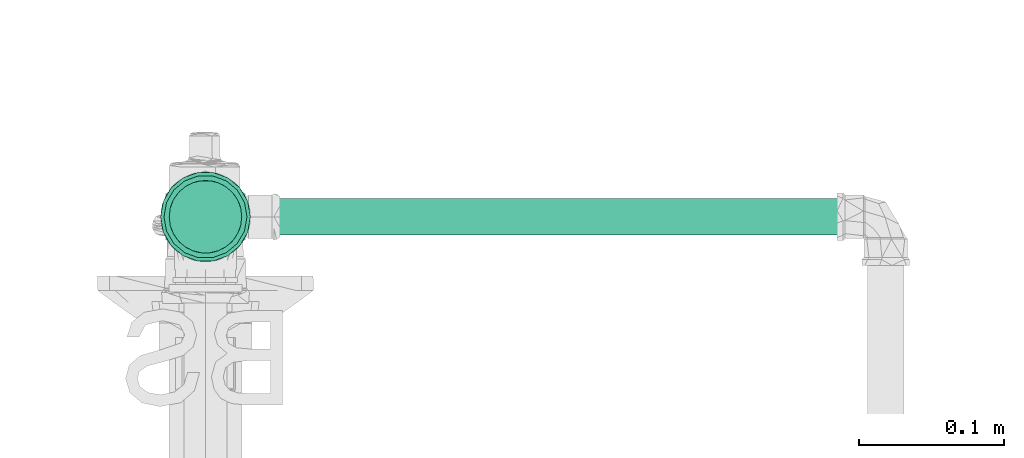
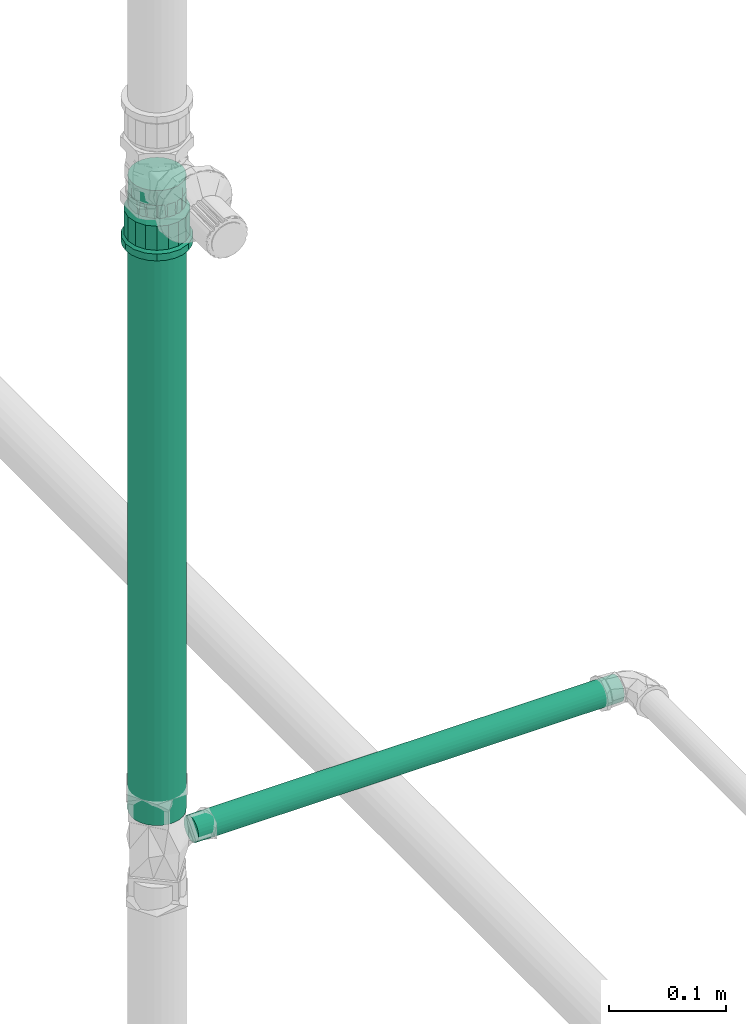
# One storey, part 155 of 589: 2 flow segments, 1 flow fitting.
"""IFC2X3 building model written with IfcOpenShell, lengths in millimetres."""

from ifc_helpers import new_model, entity, si_unit, converted_unit, derived_unit, direction, frame, frame_2d, origin, origin_2d_with_axis, place, context, subcontext, project, spatial, circle, extrude, faceted_brep, source, transform, mapped, material, type_object, type_shapes, element, save


model = new_model("IFC2X3")

# Units and contexts
model_context = context("Model", 3, precision=0.01, world=origin(), true_north=direction((6.123031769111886e-17, 1.0)))
body_context = subcontext(model_context, "Body", "Model", "MODEL_VIEW")
ifc_project = project(units=[si_unit("LENGTHUNIT", "METRE", prefix="MILLI"), si_unit("AREAUNIT", "SQUARE_METRE"), si_unit("VOLUMEUNIT", "CUBIC_METRE"), converted_unit("PLANEANGLEUNIT", "DEGREE", entity("IfcRatioMeasure", 0.017453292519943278), si_unit("PLANEANGLEUNIT", "RADIAN"), dimensions=[0, 0, 0, 0, 0, 0, 0]), si_unit("MASSUNIT", "GRAM", prefix="KILO"), derived_unit("MASSDENSITYUNIT", [(si_unit("MASSUNIT", "GRAM", prefix="KILO"), 1), (si_unit("LENGTHUNIT", "METRE"), -3)]), derived_unit("IONCONCENTRATIONUNIT", [(si_unit("MASSUNIT", "GRAM", prefix="KILO"), 1), (si_unit("LENGTHUNIT", "METRE"), -3)]), derived_unit("MOMENTOFINERTIAUNIT", [(si_unit("LENGTHUNIT", "METRE"), 4)]), si_unit("TIMEUNIT", "SECOND"), si_unit("FREQUENCYUNIT", "HERTZ"), si_unit("THERMODYNAMICTEMPERATUREUNIT", "DEGREE_CELSIUS"), derived_unit("THERMALTRANSMITTANCEUNIT", [(si_unit("MASSUNIT", "GRAM", prefix="KILO"), 1), (si_unit("THERMODYNAMICTEMPERATUREUNIT", "KELVIN"), -1), (si_unit("TIMEUNIT", "SECOND"), -3)]), derived_unit("THERMALCONDUCTANCEUNIT", [(si_unit("MASSUNIT", "GRAM", prefix="KILO"), 1), (si_unit("THERMODYNAMICTEMPERATUREUNIT", "KELVIN"), -1), (si_unit("TIMEUNIT", "SECOND"), -3), (si_unit("LENGTHUNIT", "METRE"), 1)]), derived_unit("VOLUMETRICFLOWRATEUNIT", [(si_unit("LENGTHUNIT", "METRE"), 3), (si_unit("TIMEUNIT", "SECOND"), -1)]), derived_unit("MASSFLOWRATEUNIT", [(si_unit("MASSUNIT", "GRAM", prefix="KILO"), 1), (si_unit("TIMEUNIT", "SECOND"), -1)]), derived_unit("ROTATIONALFREQUENCYUNIT", [(si_unit("TIMEUNIT", "SECOND"), -1)]), si_unit("ELECTRICCURRENTUNIT", "AMPERE"), si_unit("ELECTRICVOLTAGEUNIT", "VOLT"), si_unit("POWERUNIT", "WATT"), si_unit("FORCEUNIT", "NEWTON", prefix="KILO"), si_unit("ILLUMINANCEUNIT", "LUX"), si_unit("LUMINOUSFLUXUNIT", "LUMEN"), si_unit("LUMINOUSINTENSITYUNIT", "CANDELA"), derived_unit("USERDEFINED", [(si_unit("MASSUNIT", "GRAM", prefix="KILO"), -1), (si_unit("LENGTHUNIT", "METRE"), -2), (si_unit("TIMEUNIT", "SECOND"), 3), (si_unit("LUMINOUSFLUXUNIT", "LUMEN"), 1)]), derived_unit("USERDEFINED", [(si_unit("MASSUNIT", "GRAM", prefix="KILO"), 1), (si_unit("TIMEUNIT", "SECOND"), -3), (si_unit("LENGTHUNIT", "METRE"), 3), (si_unit("ELECTRICCURRENTUNIT", "AMPERE"), -2)]), derived_unit("SOUNDPOWERUNIT", [(si_unit("MASSUNIT", "GRAM", prefix="KILO"), 1), (si_unit("TIMEUNIT", "SECOND"), -3), (si_unit("LENGTHUNIT", "METRE"), 2)]), derived_unit("SOUNDPRESSUREUNIT", [(si_unit("MASSUNIT", "GRAM", prefix="KILO"), 1), (si_unit("LENGTHUNIT", "METRE"), -1), (si_unit("TIMEUNIT", "SECOND"), -2)]), derived_unit("LINEARVELOCITYUNIT", [(si_unit("LENGTHUNIT", "METRE"), 1), (si_unit("TIMEUNIT", "SECOND"), -1)]), si_unit("PRESSUREUNIT", "PASCAL"), derived_unit("USERDEFINED", [(si_unit("MASSUNIT", "GRAM", prefix="KILO"), 1), (si_unit("LENGTHUNIT", "METRE"), -2), (si_unit("TIMEUNIT", "SECOND"), -2)]), derived_unit("LINEARFORCEUNIT", [(si_unit("MASSUNIT", "GRAM", prefix="KILO"), 1), (si_unit("TIMEUNIT", "SECOND"), -2)]), derived_unit("PLANARFORCEUNIT", [(si_unit("MASSUNIT", "GRAM", prefix="KILO"), 1), (si_unit("LENGTHUNIT", "METRE"), -1), (si_unit("TIMEUNIT", "SECOND"), -2)]), derived_unit("SPECIFICHEATCAPACITYUNIT", [(si_unit("THERMODYNAMICTEMPERATUREUNIT", "KELVIN"), -1), (si_unit("LENGTHUNIT", "METRE"), 2), (si_unit("TIMEUNIT", "SECOND"), -2)]), derived_unit("HEATINGVALUEUNIT", [(si_unit("LENGTHUNIT", "METRE"), 2), (si_unit("TIMEUNIT", "SECOND"), -2)]), derived_unit("VAPORPERMEABILITYUNIT", [(si_unit("LENGTHUNIT", "METRE"), -1), (si_unit("TIMEUNIT", "SECOND"), 1)]), derived_unit("DYNAMICVISCOSITYUNIT", [(si_unit("MASSUNIT", "GRAM", prefix="KILO"), 1), (si_unit("TIMEUNIT", "SECOND"), -1), (si_unit("LENGTHUNIT", "METRE"), -1)]), derived_unit("THERMALEXPANSIONCOEFFICIENTUNIT", [(si_unit("THERMODYNAMICTEMPERATUREUNIT", "KELVIN"), -1)]), derived_unit("MODULUSOFELASTICITYUNIT", [(si_unit("MASSUNIT", "GRAM", prefix="KILO"), 1), (si_unit("LENGTHUNIT", "METRE"), -1), (si_unit("TIMEUNIT", "SECOND"), -2)]), derived_unit("ISOTHERMALMOISTURECAPACITYUNIT", [(si_unit("LENGTHUNIT", "METRE"), 3), (si_unit("MASSUNIT", "GRAM", prefix="KILO"), -1)]), derived_unit("MOISTUREDIFFUSIVITYUNIT", [(si_unit("TIMEUNIT", "SECOND"), -1), (si_unit("LENGTHUNIT", "METRE"), 2)])], contexts=[model_context])

# Site, building, storey
site_placement = place(None, origin())
site = spatial("IfcSite", under=ifc_project, at=site_placement, Name="Default", CompositionType="ELEMENT")
building_placement = place(site_placement, origin())
building = spatial("IfcBuilding", under=site, at=building_placement, CompositionType="ELEMENT")
storey_placement = place(building_placement, frame((0.0, 0.0, 100.0)))
storey = spatial("IfcBuildingStorey", under=building, at=storey_placement, Name="TÉRREO", CompositionType="ELEMENT", Elevation=100.0)

# Flow segments
pipe_segment_type = type_object("IfcPipeSegmentType", Name="Tipos de tubos:PVC Marrom Soldável", PredefinedType="NOTDEFINED")
flow_segment_1_placement = place(storey_placement, origin())
element("IfcFlowSegment", 1, at=flow_segment_1_placement, inside=storey, type_object=pipe_segment_type, Name="Tipos de tubos:PVC Marrom Soldável", ObjectType="Tipos de tubos:PVC Marrom Soldável", context=body_context, shape_type="SweptSolid", body=[
    extrude(circle(Radius=25.0, at=frame_2d((0.0, 1.0828671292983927e-12), x_axis=(1.0, 0.0))), frame((8798.142188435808, -7965.828664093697, 1532.599970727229), z_axis=(0.0, 0.0, 1.0), x_axis=(-1.0, 0.0, 0.0)), (0.0, 0.0, 1.0), 645.9000292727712),
])
flow_segment_2_placement = place(storey_placement, origin())
element("IfcFlowSegment", 2, at=flow_segment_2_placement, inside=storey, type_object=pipe_segment_type, Name="Tipos de tubos:PVC Marrom Soldável", ObjectType="Tipos de tubos:PVC Marrom Soldável", context=body_context, shape_type="SweptSolid", body=[
    extrude(circle(Radius=12.5, at=origin_2d_with_axis()), frame((8831.842188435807, -7965.828664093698, 1499.999970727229), z_axis=(1.0, 0.0, 0.0), x_axis=(0.0, -1.0, 0.0)), (0.0, 0.0, 1.0), 419.6286969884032),
])

# Flow fitting
ifc_material = material(Name="PVC Marrom")
pipe_fitting_type = type_object("IfcPipeFittingType", Name="PVC Marrom Soldável_Adaptador Curto com Bolsa e Rosca Aninhado_Rodrigo MEP:Adaptador", PredefinedType="NOTDEFINED", material=ifc_material)
shared_shape = source(origin(), body_context, "Body", "Brep", [
    faceted_brep([(0.0, -15.475000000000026, -26.803486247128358), (0.0, -21.884954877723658, -21.88495487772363), (0.0, -12.499999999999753, -21.65063509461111), (0.0, -6.470476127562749, -24.14814565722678), (0.0, -8.010449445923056, -29.895404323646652), (0.0, -17.677669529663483, -17.6776695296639), (0.0, -26.803486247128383, -15.474999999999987), (0.0, -21.650635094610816, -12.500000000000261), (0.0, -24.148145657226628, -6.470476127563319), (0.0, -29.895404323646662, -8.01044944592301), (0.0, -25.0, 0.0), (0.0, -30.95, 0.0), (0.0, -24.14814565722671, 6.470476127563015), (0.0, -29.895404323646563, 8.010449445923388), (0.0, -21.65063509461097, 12.499999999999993), (0.0, -26.80348624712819, 15.475000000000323), (0.0, -17.6776695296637, 17.677669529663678), (0.0, -21.884954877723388, 21.884954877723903), (0.0, -12.500000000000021, 21.65063509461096), (0.0, -15.474999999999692, 26.803486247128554), (0.0, -6.4704761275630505, 24.1481456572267), (0.0, -8.010449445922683, 29.89540432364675), (0.0, 0.0, 25.0), (0.0, 0.0, 30.95), (0.0, 6.4704761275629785, 24.14814565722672), (0.0, 8.010449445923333, 29.895404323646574), (0.0, 12.49999999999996, 21.650635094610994), (0.0, 15.475000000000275, 26.803486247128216), (0.0, 17.677669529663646, 17.67766952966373), (0.0, 21.884954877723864, 21.884954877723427), (0.0, 21.65063509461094, 12.500000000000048), (0.0, 26.803486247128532, 15.474999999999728), (0.0, 29.89540432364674, 8.010449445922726), (0.0, 24.14814565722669, 6.4704761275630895), (0.0, 30.95, 0.0), (0.0, 25.0, 0.0), (0.0, 29.895404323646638, -8.010449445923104), (0.0, 24.148145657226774, -6.470476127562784), (0.0, 26.803486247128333, -15.475000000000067), (0.0, 21.6506350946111, -12.499999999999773), (0.0, 21.884954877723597, -21.884954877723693), (0.0, 17.677669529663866, -17.67766952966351), (0.0, 15.474999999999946, -26.803486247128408), (0.0, 12.500000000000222, -21.650635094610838), (0.0, 8.010449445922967, -29.895404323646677), (0.0, 6.470476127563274, -24.148145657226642), (0.0, 0.0, -30.95), (0.0, 0.0, -25.0), (7.0, 29.083191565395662, 10.586334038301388), (7.0, 29.880651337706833, 6.064083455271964), (7.0, 30.016595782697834, 5.29316701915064), (7.0, 19.590362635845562, 23.350189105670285), (7.0, 23.70796650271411, 19.895598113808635), (7.0, 26.395579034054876, 15.24096607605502), (7.0, 10.421885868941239, 28.6425895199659), (7.0, 5.3710129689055, 30.480398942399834), (7.0, 30.95, 0.0), (7.0, 15.472758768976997, 26.804780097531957), (7.0, -15.479482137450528, 26.80089798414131), (7.0, -10.42907040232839, 28.639974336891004), (7.0, -5.37865866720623, 30.479050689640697), (7.0, -23.712956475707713, 19.889650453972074), (7.0, -19.596219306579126, 23.345274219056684), (7.0, -30.95, 0.0), (7.0, -29.08584618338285, 10.57903832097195), (7.0, -26.39940132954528, 15.234344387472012), (7.0, -0.0038228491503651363, 30.47972481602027), (7.0, -29.08584618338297, -10.579038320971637), (7.0, -19.596219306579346, -23.3452742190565), (7.0, -23.71295647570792, -19.88965045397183), (7.0, -26.39940132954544, -15.234344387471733), (7.0, -10.429070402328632, -28.639974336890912), (7.0, -5.378658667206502, -30.47905068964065), (7.0, -15.47948213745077, -26.800897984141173), (7.0, 30.0165957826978, -5.2931670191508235), (7.0, 15.472758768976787, -26.804780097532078), (7.0, 10.421885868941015, -28.642589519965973), (7.0, 5.3710129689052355, -30.480398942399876), (7.0, 23.707966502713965, -19.895598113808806), (7.0, 19.590362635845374, -23.350189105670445), (7.0, 29.88065131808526, -6.064083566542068), (7.0, 29.083191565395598, -10.58633403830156), (7.0, 26.395579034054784, -15.240966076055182), (7.0, -0.003822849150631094, -30.479724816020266), (34.4499999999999, 26.875116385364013, 9.782030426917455), (9.400000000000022, 27.737468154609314, 4.8912625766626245), (9.400000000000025, 26.87493630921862, 9.782525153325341), (9.400000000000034, 14.297928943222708, 24.769522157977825), (34.4499999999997, 14.299296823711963, 24.768732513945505), (9.40000000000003, 18.102887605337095, 21.577234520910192), (34.4499999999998, 21.908523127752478, 18.384140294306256), (34.44999999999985, 24.391819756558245, 14.083085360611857), (9.400000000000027, 24.391391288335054, 14.083736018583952), (9.400000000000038, 9.63056335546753, 26.467788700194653), (9.400000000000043, 4.963197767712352, 28.16605524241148), (34.44999999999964, 4.965271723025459, 28.165689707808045), (9.400000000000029, 21.907846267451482, 18.384946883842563), (34.44999999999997, 27.796398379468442, 4.557325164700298), (9.40000000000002, 28.600000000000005, 0.0), (34.44999999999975, 18.103909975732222, 21.57643640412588), (34.44999999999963, -0.0011994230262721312, 28.165478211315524), (9.400000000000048, -0.0035325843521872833, 28.165432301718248), (34.44999999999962, -4.967670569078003, 28.165266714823), (34.44999999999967, 9.632284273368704, 26.46721111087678), (9.400000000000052, -4.970262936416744, 28.164809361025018), (9.40000000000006, -14.304141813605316, 24.765934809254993), (34.449999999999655, -14.301406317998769, 24.76751455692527), (9.400000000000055, -9.63720237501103, 26.465372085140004), (34.449999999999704, -18.105747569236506, 21.574894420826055), (34.44999999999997, 27.73755819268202, 4.891015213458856), (9.400000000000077, -26.87738936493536, 9.77578339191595), (34.450000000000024, -28.600000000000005, 0.0), (34.449999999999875, -26.875949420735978, 9.779741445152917), (9.400000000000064, -18.108299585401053, 21.57269281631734), (9.40000000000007, -21.91245735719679, 18.379450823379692), (34.449999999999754, -21.910088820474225, 18.38227428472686), (34.44999999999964, -9.634538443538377, 26.466390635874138), (9.400000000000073, -24.394923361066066, 14.077617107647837), (34.450000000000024, 28.600000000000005, 0.0), (9.40000000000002, -28.600000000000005, 0.0), (34.44999999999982, -24.3930191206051, 14.081007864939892), (34.45000000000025, -26.87594942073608, -9.77974144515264), (9.40000000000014, -26.87738936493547, -9.77578339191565), (34.45000000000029, 18.103909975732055, -21.576436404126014), (34.45000000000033, 14.299296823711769, -24.76873251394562), (9.400000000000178, 18.10288760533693, -21.577234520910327), (34.450000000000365, -21.910088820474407, -18.38227428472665), (9.400000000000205, -21.912457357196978, -18.37945082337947), (9.400000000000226, -18.108299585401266, -21.57269281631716), (34.45000000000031, -24.393019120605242, -14.081007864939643), (9.400000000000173, -24.394923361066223, -14.077617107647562), (9.40000000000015, 21.907846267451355, -18.384946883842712), (9.40000000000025, -0.0035325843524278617, -28.165432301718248), (9.400000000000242, 4.963197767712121, -28.166055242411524), (34.45000000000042, -0.0011994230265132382, -28.165478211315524), (34.45000000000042, -14.301406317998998, -24.76751455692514), (9.400000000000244, -14.304141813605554, -24.765934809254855), (9.40000000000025, -9.637202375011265, -26.46537208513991), (34.45000000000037, 9.632284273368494, -26.467211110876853), (34.45000000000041, 4.965271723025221, -28.165689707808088), (9.400000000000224, 9.63056335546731, -26.467788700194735), (9.400000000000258, -4.970262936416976, -28.164809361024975), (34.45000000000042, -9.634538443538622, -26.46639063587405), (34.45000000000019, 24.391819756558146, -14.083085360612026), (9.40000000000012, 24.391391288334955, -14.083736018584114), (9.400000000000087, 26.874936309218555, -9.782525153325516), (34.450000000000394, -18.1057475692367, -21.574894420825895), (34.450000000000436, -4.967670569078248, -28.16526671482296), (34.45000000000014, 26.875116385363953, -9.782030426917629), (34.450000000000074, 27.796398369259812, -4.557325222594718), (9.400000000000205, 14.297928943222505, -24.769522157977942), (9.400000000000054, 27.737468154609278, -4.8912625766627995), (34.450000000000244, 21.908523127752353, -18.38414029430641), (34.45000000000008, 27.737558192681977, -4.891015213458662), (69.0, 0.0, -25.0), (69.0, 6.4704761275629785, -24.14814565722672), (69.0, 12.49999999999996, -21.650635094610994), (69.0, 17.677669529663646, -17.67766952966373), (69.0, 21.650635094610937, -12.500000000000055), (69.0, 24.14814565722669, -6.4704761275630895), (69.0, 25.0, 0.0), (69.0, 24.148145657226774, 6.470476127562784), (69.0, 21.650635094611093, 12.499999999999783), (69.0, 17.67766952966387, 17.677669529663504), (69.0, 12.500000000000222, 21.650635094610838), (69.0, 6.470476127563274, 24.148145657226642), (69.0, 0.0, 25.0), (69.0, -6.470476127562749, 24.14814565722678), (69.0, -12.499999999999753, 21.65063509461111), (69.0, -17.677669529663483, 17.6776695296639), (69.0, -21.650635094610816, 12.500000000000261), (69.0, -24.148145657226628, 6.470476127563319), (69.0, -25.0, 0.0), (69.0, -24.14814565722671, -6.470476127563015), (69.0, -21.650635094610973, -12.499999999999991), (69.0, -17.6776695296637, -17.677669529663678), (69.0, -12.500000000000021, -21.65063509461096), (69.0, -6.4704761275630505, -24.1481456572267), (40.499999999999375, 8.41832461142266, 23.136178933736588), (40.49999999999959, 19.1502152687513, 16.070757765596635), (40.49999999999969, 21.321146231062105, 12.310958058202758), (40.49999999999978, 23.492077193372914, 8.551158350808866), (40.49999999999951, 15.824202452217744, 18.861218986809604), (40.49999999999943, 12.498189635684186, 21.651680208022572), (40.49999999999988, 24.246038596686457, 4.275579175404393), (40.49999999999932, 4.3384595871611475, 24.620677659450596), (40.499999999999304, -0.003087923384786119, 24.620133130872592), (40.499999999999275, -4.344635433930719, 24.61958860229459), (40.49999999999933, -12.503620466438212, 21.648544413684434), (40.49999999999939, -15.828933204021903, 18.85724896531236), (40.49999999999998, 25.0, 0.0), (40.49999999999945, -19.154245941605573, 16.065953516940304), (40.49999999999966, -23.494221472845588, 8.545265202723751), (40.499999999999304, -8.424127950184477, 23.13406650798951), (40.49999999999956, -21.324233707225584, 12.305609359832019), (40.49999999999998, -25.0, 0.0), (40.500000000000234, -19.15424594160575, -16.065953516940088), (40.50000000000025, 12.498189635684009, -21.65168020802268), (40.500000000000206, 15.824202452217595, -18.861218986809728), (40.500000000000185, -21.32423370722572, -12.305609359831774), (40.50000000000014, -23.494221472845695, -8.545265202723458), (40.50000000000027, -15.82893320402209, -18.8572489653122), (40.5000000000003, -12.503620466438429, -21.64854441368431), (40.50000000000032, -8.42412795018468, -23.13406650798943), (40.50000000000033, -4.344635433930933, -24.619588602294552), (40.50000000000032, -0.00308792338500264, -24.620133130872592), (40.5000000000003, 4.3384595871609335, -24.62067765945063), (40.50000000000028, 8.41832461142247, -23.136178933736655), (40.50000000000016, 19.150215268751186, -16.070757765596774), (40.50000000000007, 23.49207719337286, -8.551158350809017), (40.500000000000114, 21.321146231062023, -12.31095805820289), (40.50000000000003, 24.246038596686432, -4.275579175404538), (9.40000000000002, 24.14814565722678, -6.470476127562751), (34.450000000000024, 24.14814565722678, -6.470476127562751), (34.450000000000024, 25.0, 0.0), (9.40000000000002, 25.0, 0.0), (7.0, 25.0, 0.0), (7.0, 24.14814565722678, -6.470476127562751), (9.40000000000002, 21.650635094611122, -12.499999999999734), (34.450000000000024, 21.650635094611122, -12.499999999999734), (7.0, 21.650635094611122, -12.499999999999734), (34.450000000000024, 12.500000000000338, -21.65063509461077), (34.450000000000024, 17.677669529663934, -17.677669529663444), (9.40000000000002, 17.677669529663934, -17.677669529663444), (7.0, 17.677669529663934, -17.677669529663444), (7.0, 12.500000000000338, -21.65063509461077), (9.40000000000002, 12.500000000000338, -21.65063509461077), (34.450000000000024, 6.470476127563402, -24.148145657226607), (7.0, 6.470476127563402, -24.148145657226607), (9.40000000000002, 6.470476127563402, -24.148145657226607), (34.450000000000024, 0.0, -25.0), (7.0, 0.0, -25.0), (9.40000000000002, 0.0, -25.0), (9.40000000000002, -6.470476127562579, -24.148145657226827), (34.450000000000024, -6.470476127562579, -24.148145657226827), (7.0, -6.470476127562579, -24.148145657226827), (9.40000000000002, -12.49999999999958, -21.65063509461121), (34.450000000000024, -12.49999999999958, -21.65063509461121), (7.0, -12.49999999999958, -21.65063509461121), (9.40000000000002, -24.148145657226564, -6.470476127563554), (7.0, -24.14814565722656, -6.470476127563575), (7.0, -25.0, 0.0), (9.40000000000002, -25.0, 0.0), (34.450000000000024, -25.0, 0.0), (34.450000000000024, -24.148145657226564, -6.470476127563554), (9.40000000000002, -17.677669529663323, -17.677669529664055), (34.450000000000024, -17.677669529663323, -17.677669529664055), (7.0, -17.677669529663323, -17.677669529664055), (9.40000000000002, -21.650635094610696, -12.500000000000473), (34.450000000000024, -21.650635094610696, -12.500000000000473), (7.0, -21.650635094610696, -12.500000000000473), (9.40000000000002, -24.148145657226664, 6.470476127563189), (34.450000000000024, -24.148145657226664, 6.470476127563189), (7.0, -24.148145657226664, 6.470476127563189), (9.40000000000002, -21.65063509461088, 12.50000000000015), (34.450000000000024, -21.65063509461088, 12.50000000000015), (7.0, -21.65063509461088, 12.50000000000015), (34.450000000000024, -12.49999999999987, 21.650635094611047), (34.450000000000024, -17.677669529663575, 17.677669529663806), (9.40000000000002, -17.677669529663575, 17.677669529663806), (7.0, -17.677669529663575, 17.677669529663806), (7.0, -12.49999999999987, 21.650635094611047), (9.40000000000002, -12.49999999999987, 21.650635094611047), (34.450000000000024, -6.470476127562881, 24.14814565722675), (7.0, -6.470476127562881, 24.14814565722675), (9.40000000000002, -6.470476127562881, 24.14814565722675), (34.450000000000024, 0.0, 25.0), (7.0, 0.0, 25.0), (9.40000000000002, 0.0, 25.0), (34.450000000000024, 12.50000000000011, 21.650635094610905), (9.40000000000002, 12.50000000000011, 21.650635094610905), (7.0, 12.50000000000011, 21.650635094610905), (7.0, 17.677669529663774, 17.677669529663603), (9.40000000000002, 17.677669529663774, 17.677669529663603), (34.450000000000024, 17.677669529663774, 17.677669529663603), (34.450000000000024, 21.650635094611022, 12.499999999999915), (9.40000000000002, 21.650635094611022, 12.499999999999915), (7.0, 21.650635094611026, 12.499999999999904), (7.0, 24.14814565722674, 6.470476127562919), (9.40000000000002, 24.14814565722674, 6.470476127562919), (34.450000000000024, 24.14814565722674, 6.470476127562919), (34.450000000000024, 6.470476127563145, 24.148145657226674), (9.40000000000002, 6.470476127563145, 24.148145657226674), (7.0, 6.470476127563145, 24.148145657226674)], [[[0, 1, 2]], [[0, 2, 3]], [[3, 4, 0]], [[2, 1, 5]], [[6, 5, 1]], [[7, 5, 6]], [[8, 7, 6]], [[8, 6, 9]], [[8, 9, 10]], [[10, 9, 11]], [[12, 10, 11]], [[12, 11, 13]], [[14, 12, 13]], [[14, 13, 15]], [[16, 14, 15]], [[15, 17, 16]], [[17, 18, 16]], [[18, 17, 19]], [[18, 19, 20]], [[21, 20, 19]], [[20, 21, 22]], [[22, 21, 23]], [[23, 24, 22]], [[24, 23, 25]], [[24, 25, 26]], [[27, 26, 25]], [[27, 28, 26]], [[27, 29, 28]], [[30, 28, 29]], [[31, 30, 29]], [[32, 30, 31]], [[33, 30, 32]], [[33, 32, 34]], [[34, 35, 33]], [[36, 35, 34]], [[36, 37, 35]], [[37, 36, 38]], [[39, 37, 38]], [[39, 38, 40]], [[39, 40, 41]], [[40, 42, 41]], [[41, 42, 43]], [[43, 42, 44]], [[44, 45, 43]], [[46, 45, 44]], [[4, 47, 46]], [[46, 47, 45]], [[4, 3, 47]], [[32, 48, 49, 50]], [[51, 52, 29]], [[53, 48, 31, 52]], [[54, 25, 55]], [[48, 32, 31]], [[34, 50, 56]], [[27, 57, 51]], [[29, 27, 51]], [[29, 52, 31]], [[19, 58, 59]], [[21, 19, 59]], [[54, 57, 27]], [[25, 54, 27]], [[55, 25, 23]], [[32, 50, 34]], [[59, 60, 21]], [[61, 62, 17]], [[63, 64, 13]], [[65, 61, 15, 64]], [[11, 63, 13]], [[17, 62, 19]], [[66, 55, 23, 60]], [[21, 60, 23]], [[61, 17, 15]], [[19, 62, 58]], [[13, 64, 15]], [[67, 63, 9]], [[68, 69, 1]], [[70, 67, 6, 69]], [[71, 4, 72]], [[67, 9, 6]], [[63, 11, 9]], [[4, 71, 0]], [[0, 73, 68]], [[1, 69, 6]], [[36, 34, 74]], [[42, 75, 76]], [[71, 73, 0]], [[44, 42, 76]], [[72, 4, 46]], [[1, 0, 68]], [[76, 77, 44]], [[78, 79, 40]], [[36, 74, 80, 81]], [[82, 78, 38, 81]], [[36, 81, 38]], [[40, 79, 42]], [[83, 72, 46, 77]], [[44, 77, 46]], [[78, 40, 38]], [[42, 79, 75]], [[34, 56, 74]], [[84, 85, 86]], [[87, 88, 89]], [[90, 91, 92]], [[93, 94, 95]], [[92, 96, 90]], [[97, 98, 85]], [[96, 89, 99]], [[84, 86, 91]], [[100, 101, 102]], [[103, 93, 95]], [[93, 103, 87]], [[92, 91, 86]], [[101, 104, 102]], [[99, 89, 88]], [[105, 106, 107]], [[106, 105, 108]], [[85, 84, 109, 97]], [[95, 94, 100]], [[110, 111, 112]], [[113, 114, 115]], [[102, 104, 116]], [[112, 117, 110]], [[108, 113, 115]], [[107, 116, 104]], [[97, 118, 98]], [[108, 105, 113]], [[111, 110, 119]], [[90, 96, 99]], [[120, 114, 117]], [[120, 117, 112]], [[88, 87, 103]], [[94, 101, 100]], [[115, 114, 120]], [[116, 107, 106]], [[121, 111, 122]], [[123, 124, 125]], [[126, 127, 128]], [[129, 121, 130]], [[125, 131, 123]], [[121, 122, 130]], [[132, 133, 134]], [[135, 136, 137]], [[138, 139, 140]], [[122, 111, 119]], [[130, 127, 129]], [[137, 141, 142]], [[143, 144, 145]], [[146, 126, 128]], [[134, 147, 132]], [[142, 135, 137]], [[133, 139, 134]], [[139, 133, 140]], [[146, 136, 135]], [[148, 143, 145]], [[142, 141, 147]], [[98, 118, 149]], [[124, 150, 125]], [[138, 150, 124]], [[145, 151, 148]], [[128, 136, 146]], [[131, 144, 152]], [[151, 149, 153, 148]], [[143, 152, 144]], [[123, 131, 152]], [[132, 147, 141]], [[151, 98, 149]], [[129, 127, 126]], [[140, 150, 138]], [[154, 155, 156, 157, 158, 159, 160, 161, 162, 163, 164, 165, 166, 167, 168, 169, 170, 171, 172, 173, 174, 175, 176, 177]], [[165, 164, 178]], [[179, 163, 162]], [[180, 179, 162, 181]], [[164, 182, 183]], [[184, 181, 161]], [[178, 185, 165]], [[182, 163, 179]], [[186, 187, 166, 185]], [[165, 185, 166]], [[163, 182, 164]], [[168, 188, 189]], [[161, 160, 184]], [[160, 190, 184]], [[169, 191, 170]], [[161, 181, 162]], [[192, 171, 170]], [[167, 193, 168]], [[194, 192, 170, 191]], [[172, 171, 195]], [[187, 193, 167]], [[167, 166, 187]], [[168, 193, 188]], [[169, 168, 189]], [[189, 191, 169]], [[192, 195, 171]], [[164, 183, 178]], [[173, 172, 195]], [[196, 175, 174]], [[156, 197, 198]], [[199, 196, 174, 200]], [[176, 201, 202]], [[173, 195, 200]], [[203, 204, 177]], [[201, 175, 196]], [[205, 206, 154, 204]], [[157, 156, 198]], [[175, 201, 176]], [[176, 202, 203]], [[207, 197, 156]], [[173, 200, 174]], [[177, 176, 203]], [[157, 208, 158]], [[209, 159, 158]], [[210, 209, 158, 208]], [[211, 190, 160]], [[155, 154, 206]], [[155, 206, 207]], [[155, 207, 156]], [[198, 208, 157]], [[159, 209, 211]], [[159, 211, 160]], [[177, 204, 154]], [[212, 213, 214, 215, 216, 35, 37, 217]], [[218, 219, 213, 212, 217, 37, 39, 220]], [[221, 222, 223, 224, 41, 43, 225, 226]], [[218, 220, 39, 41, 224, 223, 222, 219]], [[227, 221, 226, 225, 43, 45, 228, 229]], [[230, 227, 229, 228, 45, 47, 231, 232]], [[233, 234, 230, 232, 231, 47, 3, 235]], [[236, 237, 234, 233, 235, 3, 2, 238]], [[239, 240, 8, 10, 241, 242, 243, 244]], [[245, 246, 237, 236, 238, 2, 5, 247]], [[248, 249, 246, 245, 247, 5, 7, 250]], [[248, 250, 7, 8, 240, 239, 244, 249]], [[251, 252, 243, 242, 241, 10, 12, 253]], [[254, 255, 252, 251, 253, 12, 14, 256]], [[257, 258, 259, 260, 16, 18, 261, 262]], [[254, 256, 14, 16, 260, 259, 258, 255]], [[263, 257, 262, 261, 18, 20, 264, 265]], [[266, 263, 265, 264, 20, 22, 267, 268]], [[269, 270, 271, 26, 28, 272, 273, 274]], [[275, 276, 277, 30, 33, 278, 279, 280]], [[273, 272, 28, 30, 277, 276, 275, 274]], [[280, 279, 278, 33, 35, 216, 215, 214]], [[281, 282, 283, 24, 26, 271, 270, 269]], [[282, 281, 266, 268, 267, 22, 24, 283]], [[122, 119, 63, 67]], [[151, 145, 81, 80, 74, 56, 98]], [[71, 72, 141, 137, 136, 73]], [[83, 77, 133, 132, 141, 72]], [[136, 128, 127, 69, 68, 73]], [[130, 122, 67, 70, 69, 127]], [[76, 75, 150, 140, 133, 77]], [[82, 81, 145, 144, 131, 78]], [[131, 125, 150, 75, 79, 78]], [[85, 98, 56, 50, 49, 48, 86]], [[92, 86, 48, 53, 52, 96]], [[89, 96, 52, 51, 57, 87]], [[57, 54, 55, 94, 93, 87]], [[66, 60, 104, 101, 94, 55]], [[58, 105, 107, 104, 60, 59]], [[63, 119, 110, 64]], [[61, 65, 64, 110, 117, 114]], [[58, 62, 61, 114, 113, 105]], [[221, 227, 230, 234, 237, 246, 249, 244, 243, 252, 255, 258, 257, 263, 266, 281, 269, 274, 275, 280, 214, 213, 219, 222]], [[190, 118, 97, 109]], [[109, 84, 184]], [[184, 84, 181]], [[178, 95, 185]], [[183, 88, 103]], [[179, 90, 99]], [[182, 88, 183]], [[181, 84, 91]], [[178, 183, 103]], [[103, 95, 178]], [[186, 185, 100]], [[91, 90, 180]], [[100, 102, 186]], [[180, 181, 91]], [[99, 88, 182]], [[182, 179, 99]], [[102, 187, 186]], [[189, 115, 191]], [[187, 102, 116]], [[180, 90, 179]], [[100, 185, 95]], [[193, 106, 188]], [[111, 195, 192]], [[191, 115, 120]], [[194, 112, 192]], [[188, 106, 108]], [[194, 191, 120]], [[120, 112, 194]], [[184, 190, 109]], [[108, 115, 189]], [[112, 111, 192]], [[189, 188, 108]], [[116, 106, 193]], [[193, 187, 116]], [[111, 200, 195]], [[203, 142, 204]], [[201, 146, 202]], [[199, 129, 196]], [[142, 147, 204]], [[146, 135, 202]], [[205, 134, 206]], [[129, 126, 196]], [[196, 126, 201]], [[121, 200, 111]], [[121, 129, 199]], [[201, 126, 146]], [[206, 139, 207]], [[204, 147, 205]], [[135, 142, 203]], [[200, 121, 199]], [[134, 139, 206]], [[202, 135, 203]], [[138, 124, 197]], [[207, 138, 197]], [[211, 153, 190]], [[210, 143, 209]], [[190, 153, 149, 118]], [[143, 148, 209]], [[198, 123, 208]], [[123, 152, 208]], [[208, 152, 210]], [[138, 207, 139]], [[198, 124, 123]], [[152, 143, 210]], [[148, 153, 211]], [[197, 124, 198]], [[147, 134, 205]], [[209, 148, 211]]]),
])
type_shapes(pipe_fitting_type, [shared_shape])
flow_fitting_placement = place(storey_placement, frame((8798.142188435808, -7965.828664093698, 2125.0), z_axis=(0.0, -1.0, 0.0), x_axis=(0.0, 0.0, 1.0)))
element("IfcFlowFitting", 3, at=flow_fitting_placement, inside=storey, type_object=pipe_fitting_type, material=ifc_material, Name="PVC Marrom Soldável_Adaptador Curto com Bolsa e Rosca Aninhado_Rodrigo MEP:Adaptador", ObjectType="PVC Marrom Soldável_Adaptador Curto com Bolsa e Rosca Aninhado_Rodrigo MEP:Adaptador", context=body_context, shape_type="MappedRepresentation", body=[
    mapped(shared_shape, transform((0.0, 0.0, 0.0), scale=1.0)),
])

save(model, "model.ifc")
